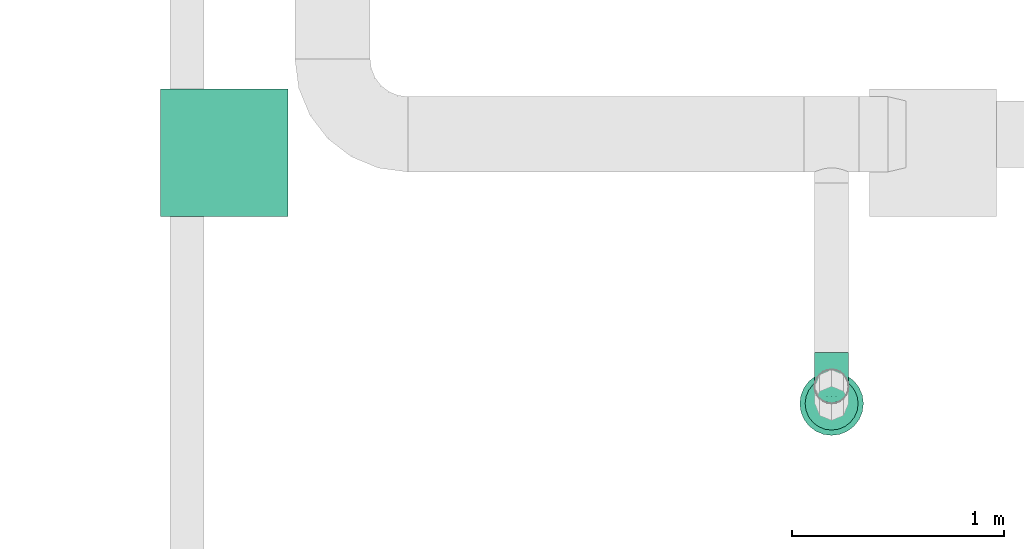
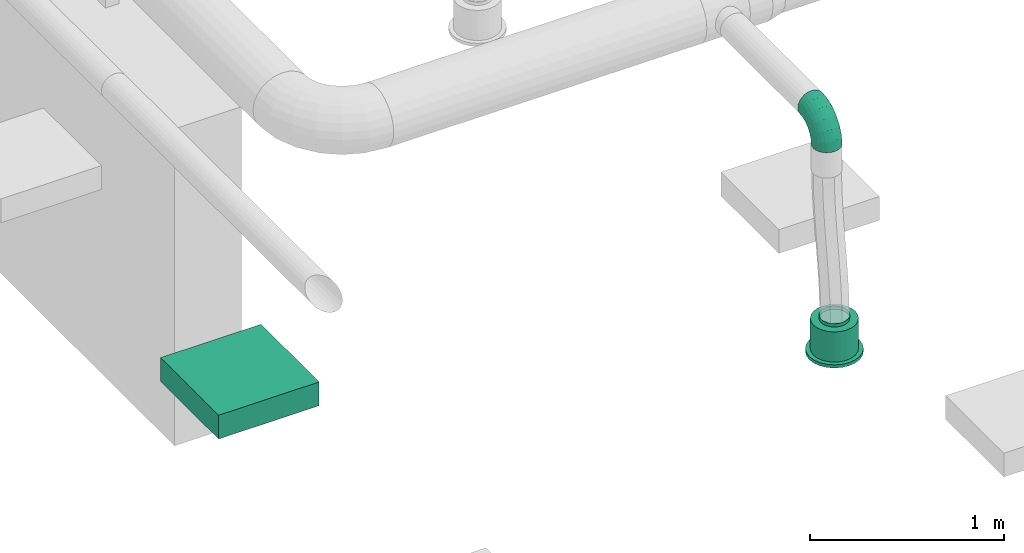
# One storey, part 73 of 374: 1 distribution element, 1 flow fitting, 1 flow terminal.
"""IFC2X3 building model written with IfcOpenShell, lengths in metres."""

from ifc_helpers import new_model, si_unit, direction, frame, frame_2d, origin, place, context, subcontext, project, spatial, rectangle, extrude, open_shell, surface_model, source, transform, mapped, element, save


model = new_model("IFC2X3")

# Units and contexts
model_context = context("Model", 3, precision=1e-05, world=origin(), true_north=direction((-0.4480736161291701, 0.8939966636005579)))
body_context = subcontext(model_context, "Body", "Model", "MODEL_VIEW")
ifc_project = project(units=[si_unit("LENGTHUNIT", "METRE"), si_unit("AREAUNIT", "SQUARE_METRE"), si_unit("VOLUMEUNIT", "CUBIC_METRE"), si_unit("PLANEANGLEUNIT", "RADIAN"), si_unit("THERMODYNAMICTEMPERATUREUNIT", "KELVIN"), si_unit("MASSUNIT", "GRAM", prefix="KILO"), si_unit("TIMEUNIT", "SECOND")], contexts=[model_context])

# Site, building, storey
site_placement = place(None, origin())
site = spatial("IfcSite", under=ifc_project, at=site_placement, Name="Site 1", CompositionType="ELEMENT")
building_placement = place(site_placement, origin())
building = spatial("IfcBuilding", under=site, at=building_placement, Name="Undefined", CompositionType="ELEMENT")
storey_placement = place(building_placement, origin())
storey = spatial("IfcBuildingStorey", under=building, at=storey_placement, Name="Rez de chauss\x8ee", CompositionType="ELEMENT", Elevation=0.0)

# Flow terminal
shared_shape_1 = source(origin(), body_context, "Body", "SurfaceModel", [
    surface_model("IfcFaceBasedSurfaceModel", [(0.0, 0.0, 0.0), (0.03915785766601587, 0.0, 0.0), (0.03915785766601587, 0.020000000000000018, 0.0), (3.552713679e-15, 0.020000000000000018, 0.0), (0.07698144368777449, 0.0, -0.010134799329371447), (0.07698144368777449, 0.020000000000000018, -0.010134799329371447), (0.11089314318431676, 0.0, -0.02971372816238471), (0.11089314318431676, 0.020000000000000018, -0.02971372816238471), (0.13858192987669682, 0.0, -0.05740251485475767), (0.13858192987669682, 0.020000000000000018, -0.05740251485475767), (0.15816085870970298, 0.0, -0.09131421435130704), (0.15816085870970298, 0.020000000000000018, -0.09131421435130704), (0.16829565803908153, 0.0, -0.12913780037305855), (0.16829565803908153, 0.020000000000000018, -0.12913780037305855), (0.16829565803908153, 0.0, -0.16829565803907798), (0.16829565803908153, 0.020000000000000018, -0.16829565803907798), (0.15816085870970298, 0.0, -0.20611924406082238), (0.15816085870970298, 0.020000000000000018, -0.20611924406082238), (0.13858192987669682, 0.0, -0.24003094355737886), (0.13858192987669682, 0.020000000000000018, -0.24003094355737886), (0.11089314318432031, 0.0, -0.2677197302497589), (0.11089314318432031, 0.020000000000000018, -0.2677197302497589), (0.07698144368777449, 0.0, -0.2872986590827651), (0.07698144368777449, 0.020000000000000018, -0.2872986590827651), (0.039157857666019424, 0.0, -0.29743345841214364), (0.039157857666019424, 0.020000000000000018, -0.29743345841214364), (3.552713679e-15, 0.0, -0.29743345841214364), (3.552713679e-15, 0.020000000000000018, -0.29743345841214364), (-0.03782358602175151, 0.0, -0.2872986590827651), (-0.03782358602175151, 0.020000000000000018, -0.2872986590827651), (-0.07173528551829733, 0.0, -0.2677197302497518), (-0.07173528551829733, 0.020000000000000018, -0.2677197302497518), (-0.0994240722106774, 0.0, -0.24003094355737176), (-0.0994240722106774, 0.020000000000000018, -0.24003094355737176), (-0.11900300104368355, 0.0, -0.2061192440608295), (-0.11900300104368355, 0.020000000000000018, -0.2061192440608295), (-0.1291378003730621, 0.0, -0.16829565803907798), (-0.1291378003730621, 0.020000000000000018, -0.16829565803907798), (-0.1291378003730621, 0.0, -0.12913780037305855), (-0.1291378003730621, 0.020000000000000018, -0.12913780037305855), (-0.11900300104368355, 0.0, -0.09131421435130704), (-0.11900300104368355, 0.020000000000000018, -0.09131421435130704), (-0.0994240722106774, 0.0, -0.05740251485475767), (-0.0994240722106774, 0.020000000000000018, -0.05740251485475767), (-0.07173528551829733, 0.0, -0.029713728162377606), (-0.07173528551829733, 0.020000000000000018, -0.029713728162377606), (-0.03782358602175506, 0.0, -0.010134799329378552), (-0.03782358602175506, 0.020000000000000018, -0.010134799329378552), (0.019578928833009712, 0.0, -0.14871672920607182), (0.019578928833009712, 0.020000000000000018, -0.14871672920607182), (0.003263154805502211, 0.020000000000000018, -0.02478612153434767), (0.035894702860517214, 0.020000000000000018, -0.02478612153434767), (0.035894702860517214, 0.20999999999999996, -0.02478612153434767), (0.003263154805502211, 0.20999999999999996, -0.02478612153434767), (0.06741435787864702, 0.020000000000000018, -0.033231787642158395), (0.06741435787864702, 0.20999999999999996, -0.033231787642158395), (0.0956741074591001, 0.020000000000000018, -0.04954756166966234), (0.0956741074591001, 0.20999999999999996, -0.04954756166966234), (0.11874809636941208, 0.020000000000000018, -0.07262155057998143), (0.11874809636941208, 0.20999999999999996, -0.07262155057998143), (0.13506387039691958, 0.020000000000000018, -0.10088130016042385), (0.13506387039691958, 0.20999999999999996, -0.10088130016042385), (0.1435095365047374, 0.020000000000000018, -0.13240095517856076), (0.1435095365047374, 0.20999999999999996, -0.13240095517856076), (0.1435095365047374, 0.020000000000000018, -0.16503250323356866), (0.1435095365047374, 0.20999999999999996, -0.16503250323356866), (0.13506387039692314, 0.020000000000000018, -0.19655215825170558), (0.13506387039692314, 0.20999999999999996, -0.19655215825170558), (0.11874809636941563, 0.020000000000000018, -0.2248119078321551), (0.11874809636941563, 0.20999999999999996, -0.2248119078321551), (0.09567410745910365, 0.020000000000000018, -0.24788589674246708), (0.09567410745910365, 0.20999999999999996, -0.24788589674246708), (0.06741435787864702, 0.020000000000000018, -0.26420167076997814), (0.06741435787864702, 0.20999999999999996, -0.26420167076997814), (0.035894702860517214, 0.020000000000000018, -0.27264733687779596), (0.035894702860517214, 0.20999999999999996, -0.27264733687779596), (0.0032631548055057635, 0.020000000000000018, -0.27264733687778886), (0.0032631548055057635, 0.20999999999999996, -0.27264733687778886), (-0.028256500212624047, 0.020000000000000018, -0.26420167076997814), (-0.028256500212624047, 0.20999999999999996, -0.26420167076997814), (-0.05651624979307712, 0.020000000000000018, -0.2478858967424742), (-0.05651624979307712, 0.20999999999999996, -0.2478858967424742), (-0.07959023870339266, 0.020000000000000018, -0.2248119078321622), (-0.07959023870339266, 0.20999999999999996, -0.2248119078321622), (-0.09590601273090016, 0.020000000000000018, -0.19655215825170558), (-0.09590601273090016, 0.20999999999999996, -0.19655215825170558), (-0.10435167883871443, 0.020000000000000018, -0.16503250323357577), (-0.10435167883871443, 0.20999999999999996, -0.16503250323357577), (-0.10435167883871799, 0.020000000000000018, -0.13240095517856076), (-0.10435167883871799, 0.20999999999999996, -0.13240095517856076), (-0.09590601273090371, 0.020000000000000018, -0.10088130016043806), (-0.09590601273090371, 0.20999999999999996, -0.10088130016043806), (-0.07959023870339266, 0.020000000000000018, -0.07262155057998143), (-0.07959023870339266, 0.20999999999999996, -0.07262155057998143), (-0.056516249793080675, 0.020000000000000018, -0.04954756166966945), (-0.056516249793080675, 0.20999999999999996, -0.04954756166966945), (-0.028256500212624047, 0.020000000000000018, -0.033231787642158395), (-0.028256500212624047, 0.20999999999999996, -0.033231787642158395), (0.019578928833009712, 0.20999999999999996, -0.14871672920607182), (0.009136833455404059, 0.20999999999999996, -0.06940114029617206), (0.030021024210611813, 0.20999999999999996, -0.06940114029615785), (0.030021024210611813, 0.22999999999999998, -0.06940114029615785), (0.009136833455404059, 0.22999999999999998, -0.06940114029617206), (0.05019360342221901, 0.20999999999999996, -0.07480636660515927), (0.05019360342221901, 0.22999999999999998, -0.07480636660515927), (0.06827984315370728, 0.20999999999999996, -0.08524846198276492), (0.06827984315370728, 0.22999999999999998, -0.08524846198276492), (0.0830471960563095, 0.20999999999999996, -0.10001581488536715), (0.0830471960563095, 0.22999999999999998, -0.10001581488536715), (0.0934892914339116, 0.20999999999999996, -0.11810205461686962), (0.0934892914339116, 0.22999999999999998, -0.11810205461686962), (0.09889451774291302, 0.20999999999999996, -0.13827463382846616), (0.09889451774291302, 0.22999999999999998, -0.13827463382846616), (0.09889451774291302, 0.20999999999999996, -0.15915882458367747), (0.09889451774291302, 0.22999999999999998, -0.15915882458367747), (0.09348929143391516, 0.20999999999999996, -0.179331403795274), (0.09348929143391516, 0.22999999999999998, -0.179331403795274), (0.0830471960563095, 0.20999999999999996, -0.19741764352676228), (0.0830471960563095, 0.22999999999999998, -0.19741764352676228), (0.06827984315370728, 0.20999999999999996, -0.2121849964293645), (0.06827984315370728, 0.22999999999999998, -0.2121849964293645), (0.05019360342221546, 0.20999999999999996, -0.22262709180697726), (0.05019360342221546, 0.22999999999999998, -0.22262709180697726), (0.030021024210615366, 0.20999999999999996, -0.22803231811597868), (0.030021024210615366, 0.22999999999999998, -0.22803231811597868), (0.009136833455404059, 0.20999999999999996, -0.22803231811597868), (0.009136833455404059, 0.22999999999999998, -0.22803231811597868), (-0.011035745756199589, 0.20999999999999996, -0.22262709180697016), (-0.011035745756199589, 0.22999999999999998, -0.22262709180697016), (-0.0291219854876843, 0.20999999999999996, -0.2121849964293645), (-0.0291219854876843, 0.22999999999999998, -0.2121849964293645), (-0.043889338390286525, 0.20999999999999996, -0.19741764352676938), (-0.043889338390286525, 0.22999999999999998, -0.19741764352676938), (-0.05433143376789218, 0.20999999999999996, -0.17933140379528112), (-0.05433143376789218, 0.22999999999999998, -0.17933140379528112), (-0.05973666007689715, 0.20999999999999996, -0.15915882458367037), (-0.05973666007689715, 0.22999999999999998, -0.15915882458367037), (-0.0597366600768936, 0.20999999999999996, -0.13827463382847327), (-0.0597366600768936, 0.22999999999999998, -0.13827463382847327), (-0.05433143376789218, 0.20999999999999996, -0.11810205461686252), (-0.05433143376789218, 0.22999999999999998, -0.11810205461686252), (-0.043889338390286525, 0.20999999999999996, -0.10001581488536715), (-0.043889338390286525, 0.22999999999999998, -0.10001581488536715), (-0.02912198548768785, 0.20999999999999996, -0.08524846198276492), (-0.02912198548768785, 0.22999999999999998, -0.08524846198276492), (-0.011035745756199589, 0.20999999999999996, -0.07480636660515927), (-0.011035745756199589, 0.22999999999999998, -0.07480636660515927)], [open_shell([[[0, 1, 2, 3]], [[1, 4, 5, 2]], [[4, 6, 7, 5]], [[6, 8, 9, 7]], [[8, 10, 11, 9]], [[10, 12, 13, 11]], [[12, 14, 15, 13]], [[14, 16, 17, 15]], [[16, 18, 19, 17]], [[18, 20, 21, 19]], [[20, 22, 23, 21]], [[22, 24, 25, 23]], [[24, 26, 27, 25]], [[26, 28, 29, 27]], [[28, 30, 31, 29]], [[30, 32, 33, 31]], [[32, 34, 35, 33]], [[34, 36, 37, 35]], [[36, 38, 39, 37]], [[38, 40, 41, 39]], [[40, 42, 43, 41]], [[42, 44, 45, 43]], [[44, 46, 47, 45]], [[46, 0, 3, 47]], [[48, 1, 0]], [[48, 4, 1]], [[48, 6, 4]], [[48, 8, 6]], [[48, 10, 8]], [[48, 12, 10]], [[48, 14, 12]], [[48, 16, 14]], [[48, 18, 16]], [[48, 20, 18]], [[48, 22, 20]], [[48, 24, 22]], [[48, 26, 24]], [[48, 28, 26]], [[48, 30, 28]], [[48, 32, 30]], [[48, 34, 32]], [[48, 36, 34]], [[48, 38, 36]], [[48, 40, 38]], [[48, 42, 40]], [[48, 44, 42]], [[48, 46, 44]], [[48, 0, 46]], [[49, 47, 3]], [[49, 45, 47]], [[49, 43, 45]], [[49, 41, 43]], [[49, 39, 41]], [[49, 37, 39]], [[49, 35, 37]], [[49, 33, 35]], [[49, 31, 33]], [[49, 29, 31]], [[49, 27, 29]], [[49, 25, 27]], [[49, 23, 25]], [[49, 21, 23]], [[49, 19, 21]], [[49, 17, 19]], [[49, 15, 17]], [[49, 13, 15]], [[49, 11, 13]], [[49, 9, 11]], [[49, 7, 9]], [[49, 5, 7]], [[49, 2, 5]], [[49, 3, 2]], [[50, 51, 52, 53]], [[51, 54, 55, 52]], [[54, 56, 57, 55]], [[56, 58, 59, 57]], [[58, 60, 61, 59]], [[60, 62, 63, 61]], [[62, 64, 65, 63]], [[64, 66, 67, 65]], [[66, 68, 69, 67]], [[68, 70, 71, 69]], [[70, 72, 73, 71]], [[72, 74, 75, 73]], [[74, 76, 77, 75]], [[76, 78, 79, 77]], [[78, 80, 81, 79]], [[80, 82, 83, 81]], [[82, 84, 85, 83]], [[84, 86, 87, 85]], [[86, 88, 89, 87]], [[88, 90, 91, 89]], [[90, 92, 93, 91]], [[92, 94, 95, 93]], [[94, 96, 97, 95]], [[96, 50, 53, 97]], [[49, 51, 50]], [[49, 54, 51]], [[49, 56, 54]], [[49, 58, 56]], [[49, 60, 58]], [[49, 62, 60]], [[49, 64, 62]], [[49, 66, 64]], [[49, 68, 66]], [[49, 70, 68]], [[49, 72, 70]], [[49, 74, 72]], [[49, 76, 74]], [[49, 78, 76]], [[49, 80, 78]], [[49, 82, 80]], [[49, 84, 82]], [[49, 86, 84]], [[49, 88, 86]], [[49, 90, 88]], [[49, 92, 90]], [[49, 94, 92]], [[49, 96, 94]], [[49, 50, 96]], [[98, 97, 53]], [[98, 95, 97]], [[98, 93, 95]], [[98, 91, 93]], [[98, 89, 91]], [[98, 87, 89]], [[98, 85, 87]], [[98, 83, 85]], [[98, 81, 83]], [[98, 79, 81]], [[98, 77, 79]], [[98, 75, 77]], [[98, 73, 75]], [[98, 71, 73]], [[98, 69, 71]], [[98, 67, 69]], [[98, 65, 67]], [[98, 63, 65]], [[98, 61, 63]], [[98, 59, 61]], [[98, 57, 59]], [[98, 55, 57]], [[98, 52, 55]], [[98, 53, 52]], [[99, 100, 101, 102]], [[100, 103, 104, 101]], [[103, 105, 106, 104]], [[105, 107, 108, 106]], [[107, 109, 110, 108]], [[109, 111, 112, 110]], [[111, 113, 114, 112]], [[113, 115, 116, 114]], [[115, 117, 118, 116]], [[117, 119, 120, 118]], [[119, 121, 122, 120]], [[121, 123, 124, 122]], [[123, 125, 126, 124]], [[125, 127, 128, 126]], [[127, 129, 130, 128]], [[129, 131, 132, 130]], [[131, 133, 134, 132]], [[133, 135, 136, 134]], [[135, 137, 138, 136]], [[137, 139, 140, 138]], [[139, 141, 142, 140]], [[141, 143, 144, 142]], [[143, 145, 146, 144]], [[145, 99, 102, 146]]])]),
])
flow_terminal_placement = place(storey_placement, origin())
element("IfcFlowTerminal", 1, at=flow_terminal_placement, inside=storey, Name="Air diffuseur - bouche", ObjectType="Air diffuseur - bouche", context=body_context, shape_type="MappedRepresentation", body=[
    mapped(shared_shape_1, transform((48.290000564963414, 7.104998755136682, 2.38), x_axis=(-0.9914448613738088, -0.13052619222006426, 0.0), y_axis=(0.0, 0.0, 1.0), z_axis=(-0.13052619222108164, 0.9914448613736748, 0.0))),
])

# Flow fitting
shared_shape_2 = source(origin(), body_context, "Body", "SurfaceModel", [
    surface_model("IfcFaceBasedSurfaceModel", [(0.06265257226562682, -8.8817842e-16, 0.0), (0.062296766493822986, 0.02088115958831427, -7.105427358e-15), (0.0003558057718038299, 0.020881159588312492, 7.105427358e-15), (0.0, 0.0, 0.0), (-0.059474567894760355, 0.022956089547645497, -0.015896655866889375), (-0.06051773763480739, 0.002098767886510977, -0.01607928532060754), (-0.11311701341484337, 0.02696454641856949, -0.04660663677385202), (-0.11477645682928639, 0.006153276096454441, -0.04714207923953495), (-0.15691588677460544, 0.0326333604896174, -0.09003710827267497), (-0.15907851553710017, 0.01188721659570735, -0.09107150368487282), (-0.18788636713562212, 0.03957621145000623, -0.14322835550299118), (-0.1904048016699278, 0.01890983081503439, -0.14487384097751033), (-0.2039178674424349, 0.04731995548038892, -0.20255548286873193), (-0.20662048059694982, 0.026742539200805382, -0.20488255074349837), (0.061253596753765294, 0.04103889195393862, -0.0053597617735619), (0.0013989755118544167, 0.04103889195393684, -0.005359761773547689), (-0.05641614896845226, 0.04304393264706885, -0.02072097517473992), (-0.10825177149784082, 0.04691737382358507, -0.050396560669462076), (-0.15057538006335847, 0.05239524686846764, -0.09236417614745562), (-0.18050269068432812, 0.05910424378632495, -0.14376379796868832), (-0.19599420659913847, 0.06658715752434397, -0.20109262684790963), (0.05959415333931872, 0.05909948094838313, -0.01571402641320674), (0.003058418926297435, 0.05909948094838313, -0.01571402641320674), (-0.05155090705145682, 0.06099334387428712, -0.030223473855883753), (-0.10051228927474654, 0.06465200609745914, -0.058253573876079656), (-0.1404890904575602, 0.0698261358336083, -0.09789412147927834), (-0.16875695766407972, 0.0761631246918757, -0.14644367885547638), (-0.18338948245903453, 0.08323111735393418, -0.2005936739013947), (0.057431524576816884, 0.07383212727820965, -0.030357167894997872), (0.005221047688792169, 0.07383212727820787, -0.03035716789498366), (-0.0452104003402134, 0.07558110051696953, -0.04375657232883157), (-0.09042599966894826, 0.07895985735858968, -0.06964223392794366), (-0.12734438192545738, 0.08373814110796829, -0.10625008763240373), (-0.15344962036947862, 0.08959031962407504, -0.15108536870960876), (-0.16696268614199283, 0.0961175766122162, -0.20109262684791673), (0.054913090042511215, 0.0842328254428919, -0.048291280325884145), (0.007739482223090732, 0.08423282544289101, -0.04829128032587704), (-0.037826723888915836, 0.08581307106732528, -0.06039801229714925), (-0.07868026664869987, 0.08886587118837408, -0.08378642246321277), (-0.11203704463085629, 0.09318318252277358, -0.11686262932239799), (-0.13562384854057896, 0.09847078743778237, -0.1573725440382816), (-0.14783327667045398, 0.10436834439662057, -0.20255548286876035), (0.05221047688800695, 0.0895927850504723, -0.06829418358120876), (0.010442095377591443, 0.08959278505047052, -0.06829418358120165), (-0.029903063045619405, 0.09099196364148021, -0.07901370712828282), (-0.06607554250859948, 0.09369496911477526, -0.0997222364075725), (-0.0956102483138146, 0.0975175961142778, -0.12900851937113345), (-0.11649443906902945, 0.10219933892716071, -0.16487674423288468), (-0.12730489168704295, 0.1074211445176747, -0.2048825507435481), (0.04950786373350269, 0.08954673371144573, -0.08900271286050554), (0.013144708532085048, 0.08954673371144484, -0.08900271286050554), (-0.02197940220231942, 0.09076484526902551, -0.09833502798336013), (-0.05347081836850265, 0.09311805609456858, -0.11636367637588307), (-0.0791834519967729, 0.09644599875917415, -0.14186003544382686), (-0.09736502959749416, 0.10052187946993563, -0.17308657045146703), (-0.10677650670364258, 0.1050679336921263, -0.20791524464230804), (0.04698942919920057, 0.08409780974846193, -0.10900561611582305), (0.015663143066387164, 0.08409780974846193, -0.10900561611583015), (-0.014595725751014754, 0.08514719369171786, -0.11704525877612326), (-0.0417250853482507, 0.0871744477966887, -0.13257665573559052), (-0.06387611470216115, 0.09004141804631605, -0.15454136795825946), (-0.07953925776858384, 0.09355272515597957, -0.1814425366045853), (-0.08764709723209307, 0.09746907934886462, -0.21144689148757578), (0.04482680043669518, 0.0736173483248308, -0.12693972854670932), (0.017825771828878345, 0.0736173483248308, -0.12693972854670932), (-0.008255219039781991, 0.07452184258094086, -0.13386932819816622), (-0.03163879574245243, 0.0762691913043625, -0.14725628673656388), (-0.050731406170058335, 0.07874031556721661, -0.1661883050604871), (-0.06423192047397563, 0.08176681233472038, -0.18937519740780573), (-0.07122030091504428, 0.08514243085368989, -0.21523681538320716), (0.04316735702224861, 0.058819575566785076, -0.14158287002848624), (0.019485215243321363, 0.058819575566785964, -0.14158287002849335), (-0.0033899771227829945, 0.05961289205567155, -0.14766070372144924), (-0.02389931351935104, 0.06114546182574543, -0.15940217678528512), (-0.04064511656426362, 0.06331284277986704, -0.17600712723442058), (-0.052486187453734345, 0.06596733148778, -0.19634395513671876), (-0.05861557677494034, 0.06892802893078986, -0.2190267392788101), (0.04212418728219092, 0.040712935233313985, -0.15193713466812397), (0.020528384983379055, 0.040712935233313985, -0.15193713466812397), (-0.0003315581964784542, 0.041436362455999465, -0.15747952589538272), (-0.019034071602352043, 0.04283391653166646, -0.16818660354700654), (-0.03430460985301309, 0.04481035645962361, -0.1833286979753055), (-0.04510251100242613, 0.047230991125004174, -0.20187390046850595), (-0.05069191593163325, 0.04993085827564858, -0.22255838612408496), (0.04176838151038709, 0.02053136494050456, -0.15729689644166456), (0.020884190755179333, 0.02053136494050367, -0.15729689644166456), (0.0007116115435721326, 0.021230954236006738, -0.16265665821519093), (-0.017374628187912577, 0.022582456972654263, -0.17301092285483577), (-0.03214198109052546, 0.024493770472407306, -0.1876540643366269), (-0.042584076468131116, 0.026834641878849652, -0.20558817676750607), (-0.04798930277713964, 0.02944554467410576, -0.22559108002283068), (0.04212418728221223, -0.000349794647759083, -0.15729689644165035), (0.020528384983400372, -0.000349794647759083, -0.15729689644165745), (-0.0003315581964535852, 0.00037363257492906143, -0.1628392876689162), (-0.019034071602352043, 0.0017711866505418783, -0.17354636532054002), (-0.03430460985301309, 0.0037476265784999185, -0.18868845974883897), (-0.04510251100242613, 0.00616826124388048, -0.20723366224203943), (-0.05069191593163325, 0.008868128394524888, -0.22791814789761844), (0.04316735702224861, -0.020507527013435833, -0.15193713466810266), (0.019485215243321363, -0.020507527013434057, -0.15193713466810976), (-0.0033899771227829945, -0.019714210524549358, -0.15801496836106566), (-0.02389931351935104, -0.01818164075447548, -0.16975644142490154), (-0.04064511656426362, -0.01601425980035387, -0.186361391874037), (-0.052486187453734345, -0.013359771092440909, -0.20669821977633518), (-0.05861557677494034, -0.010399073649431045, -0.22938100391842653), (0.04482680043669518, -0.03856811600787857, -0.1415828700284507), (0.017825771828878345, -0.03856811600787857, -0.1415828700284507), (-0.008255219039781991, -0.03766362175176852, -0.1485124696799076), (-0.03163879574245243, -0.03591627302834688, -0.16189942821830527), (-0.050731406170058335, -0.03344514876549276, -0.1808314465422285), (-0.06423192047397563, -0.030418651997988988, -0.20401833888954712), (-0.07122030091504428, -0.027043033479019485, -0.22987995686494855), (0.04698942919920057, -0.05330076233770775, -0.12693972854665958), (0.015663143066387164, -0.05330076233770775, -0.12693972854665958), (-0.014595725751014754, -0.05225137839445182, -0.1349793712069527), (-0.0417250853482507, -0.05022412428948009, -0.15051076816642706), (-0.06387611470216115, -0.047357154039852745, -0.172475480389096), (-0.07953925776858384, -0.043845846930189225, -0.19937664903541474), (-0.08764709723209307, -0.03992949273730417, -0.2293810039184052), (0.04950786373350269, -0.06370146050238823, -0.10900561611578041), (0.013144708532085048, -0.06370146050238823, -0.10900561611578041), (-0.02197940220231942, -0.06248334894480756, -0.11833793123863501), (-0.05347081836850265, -0.06013013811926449, -0.13636657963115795), (-0.0791834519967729, -0.05680219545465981, -0.16186293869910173), (-0.09736502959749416, -0.05272631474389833, -0.1930894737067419), (-0.10677650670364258, -0.04818026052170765, -0.2279181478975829), (0.05221047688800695, -0.06906142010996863, -0.08900271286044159), (0.010442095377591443, -0.06906142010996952, -0.08900271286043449), (-0.029903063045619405, -0.06766224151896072, -0.09972223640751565), (-0.06607554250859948, -0.06495923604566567, -0.12043076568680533), (-0.0956102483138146, -0.06113660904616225, -0.14971704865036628), (-0.11649443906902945, -0.05645486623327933, -0.1855852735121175), (-0.12730489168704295, -0.05123306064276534, -0.22559108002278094), (0.054913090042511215, -0.06901536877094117, -0.06829418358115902), (0.007739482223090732, -0.06901536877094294, -0.06829418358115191), (-0.037826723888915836, -0.06743512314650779, -0.08040091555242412), (-0.07868026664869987, -0.06438232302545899, -0.10378932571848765), (-0.11203704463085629, -0.06006501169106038, -0.13686553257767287), (-0.13562384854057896, -0.0547774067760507, -0.17737544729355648), (-0.14783327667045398, -0.04887984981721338, -0.22255838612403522), (0.057431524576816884, -0.06356644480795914, -0.0482912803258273), (0.005221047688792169, -0.06356644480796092, -0.04829128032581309), (-0.0452104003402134, -0.061817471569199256, -0.0616906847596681), (-0.09042599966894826, -0.05843871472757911, -0.0875763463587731), (-0.12734438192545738, -0.05366043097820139, -0.12418420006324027), (-0.15344962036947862, -0.04780825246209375, -0.1690194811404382), (-0.16696268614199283, -0.041280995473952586, -0.21902673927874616), (0.05959415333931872, -0.05308598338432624, -0.030357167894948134), (0.003058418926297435, -0.05308598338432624, -0.030357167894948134), (-0.05155090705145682, -0.05119212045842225, -0.04486661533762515), (-0.10051228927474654, -0.04753345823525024, -0.07289671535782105), (-0.1404890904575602, -0.04235932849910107, -0.11253726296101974), (-0.16875695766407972, -0.03602233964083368, -0.16108682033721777), (-0.18338948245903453, -0.02895434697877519, -0.2152368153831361), (0.061253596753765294, -0.03828821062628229, -0.015714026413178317), (0.0013989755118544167, -0.03828821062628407, -0.015714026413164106), (-0.05641614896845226, -0.03628316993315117, -0.031075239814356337), (-0.10825177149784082, -0.03240972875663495, -0.06075082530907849), (-0.15057538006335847, -0.026931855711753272, -0.10271844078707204), (-0.18050269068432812, -0.02022285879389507, -0.15411806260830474), (-0.19599420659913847, -0.012739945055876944, -0.21144689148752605), (0.062296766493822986, -0.020181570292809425, -0.005359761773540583), (0.0003558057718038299, -0.020181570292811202, -0.0053597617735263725), (-0.059474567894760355, -0.018106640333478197, -0.021256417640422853), (-0.11311701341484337, -0.014098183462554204, -0.051966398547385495), (-0.15691588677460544, -0.00842936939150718, -0.09539687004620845), (-0.18788636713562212, -0.0014865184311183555, -0.14858811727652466), (-0.2039178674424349, 0.006257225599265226, -0.2079152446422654)], [open_shell([[[0, 1, 2, 3]], [[3, 2, 4, 5]], [[5, 4, 6, 7]], [[7, 6, 8, 9]], [[9, 8, 10, 11]], [[11, 10, 12, 13]], [[1, 14, 15, 2]], [[2, 15, 16, 4]], [[4, 16, 17, 6]], [[6, 17, 18, 8]], [[8, 18, 19, 10]], [[10, 19, 20, 12]], [[14, 21, 22, 15]], [[15, 22, 23, 16]], [[16, 23, 24, 17]], [[17, 24, 25, 18]], [[18, 25, 26, 19]], [[19, 26, 27, 20]], [[21, 28, 29, 22]], [[22, 29, 30, 23]], [[23, 30, 31, 24]], [[24, 31, 32, 25]], [[25, 32, 33, 26]], [[26, 33, 34, 27]], [[28, 35, 36, 29]], [[29, 36, 37, 30]], [[30, 37, 38, 31]], [[31, 38, 39, 32]], [[32, 39, 40, 33]], [[33, 40, 41, 34]], [[35, 42, 43, 36]], [[36, 43, 44, 37]], [[37, 44, 45, 38]], [[38, 45, 46, 39]], [[39, 46, 47, 40]], [[40, 47, 48, 41]], [[42, 49, 50, 43]], [[43, 50, 51, 44]], [[44, 51, 52, 45]], [[45, 52, 53, 46]], [[46, 53, 54, 47]], [[47, 54, 55, 48]], [[49, 56, 57, 50]], [[50, 57, 58, 51]], [[51, 58, 59, 52]], [[52, 59, 60, 53]], [[53, 60, 61, 54]], [[54, 61, 62, 55]], [[56, 63, 64, 57]], [[57, 64, 65, 58]], [[58, 65, 66, 59]], [[59, 66, 67, 60]], [[60, 67, 68, 61]], [[61, 68, 69, 62]], [[63, 70, 71, 64]], [[64, 71, 72, 65]], [[65, 72, 73, 66]], [[66, 73, 74, 67]], [[67, 74, 75, 68]], [[68, 75, 76, 69]], [[70, 77, 78, 71]], [[71, 78, 79, 72]], [[72, 79, 80, 73]], [[73, 80, 81, 74]], [[74, 81, 82, 75]], [[75, 82, 83, 76]], [[77, 84, 85, 78]], [[78, 85, 86, 79]], [[79, 86, 87, 80]], [[80, 87, 88, 81]], [[81, 88, 89, 82]], [[82, 89, 90, 83]], [[84, 91, 92, 85]], [[85, 92, 93, 86]], [[86, 93, 94, 87]], [[87, 94, 95, 88]], [[88, 95, 96, 89]], [[89, 96, 97, 90]], [[91, 98, 99, 92]], [[92, 99, 100, 93]], [[93, 100, 101, 94]], [[94, 101, 102, 95]], [[95, 102, 103, 96]], [[96, 103, 104, 97]], [[98, 105, 106, 99]], [[99, 106, 107, 100]], [[100, 107, 108, 101]], [[101, 108, 109, 102]], [[102, 109, 110, 103]], [[103, 110, 111, 104]], [[105, 112, 113, 106]], [[106, 113, 114, 107]], [[107, 114, 115, 108]], [[108, 115, 116, 109]], [[109, 116, 117, 110]], [[110, 117, 118, 111]], [[112, 119, 120, 113]], [[113, 120, 121, 114]], [[114, 121, 122, 115]], [[115, 122, 123, 116]], [[116, 123, 124, 117]], [[117, 124, 125, 118]], [[119, 126, 127, 120]], [[120, 127, 128, 121]], [[121, 128, 129, 122]], [[122, 129, 130, 123]], [[123, 130, 131, 124]], [[124, 131, 132, 125]], [[126, 133, 134, 127]], [[127, 134, 135, 128]], [[128, 135, 136, 129]], [[129, 136, 137, 130]], [[130, 137, 138, 131]], [[131, 138, 139, 132]], [[133, 140, 141, 134]], [[134, 141, 142, 135]], [[135, 142, 143, 136]], [[136, 143, 144, 137]], [[137, 144, 145, 138]], [[138, 145, 146, 139]], [[140, 147, 148, 141]], [[141, 148, 149, 142]], [[142, 149, 150, 143]], [[143, 150, 151, 144]], [[144, 151, 152, 145]], [[145, 152, 153, 146]], [[147, 154, 155, 148]], [[148, 155, 156, 149]], [[149, 156, 157, 150]], [[150, 157, 158, 151]], [[151, 158, 159, 152]], [[152, 159, 160, 153]], [[154, 161, 162, 155]], [[155, 162, 163, 156]], [[156, 163, 164, 157]], [[157, 164, 165, 158]], [[158, 165, 166, 159]], [[159, 166, 167, 160]], [[161, 0, 3, 162]], [[162, 3, 5, 163]], [[163, 5, 7, 164]], [[164, 7, 9, 165]], [[165, 9, 11, 166]], [[166, 11, 13, 167]]])]),
])
flow_fitting_placement = place(storey_placement, origin())
element("IfcFlowFitting", 2, at=flow_fitting_placement, inside=storey, Name="Coude", ObjectType="Coude", context=body_context, shape_type="MappedRepresentation", body=[
    mapped(shared_shape_2, transform((48.290000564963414, 6.963176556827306, 3.7021165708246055), x_axis=(9.56658874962e-13, -0.13052619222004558, -0.9914448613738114), y_axis=(0.9915887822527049, 0.12832103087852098, -0.01689378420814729), z_axis=(0.12942830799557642, -0.983105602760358, 0.1294283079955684))),
])

# Distribution element
distribution_element_placement = place(storey_placement, origin())
element("IfcDistributionElement", 3, at=distribution_element_placement, inside=storey, Name="Decken-Rechteckleuchte mit Rahmen AP", ObjectType="Decken-Rechteckleuchte mit Rahmen AP", context=body_context, shape_type="SweptSolid", body=[
    extrude(rectangle(XDim=0.6000000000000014, YDim=0.6000000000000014, at=frame_2d((3.552713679e-15, 0.0), x_axis=(0.0, 1.0))), frame((45.425337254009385, 8.1375, 2.5500000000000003), z_axis=(0.0, 0.0, -1.0), x_axis=(1.0, 0.0, 0.0)), (0.0, 0.0, 1.0), 0.15),
])

save(model, "model.ifc")
